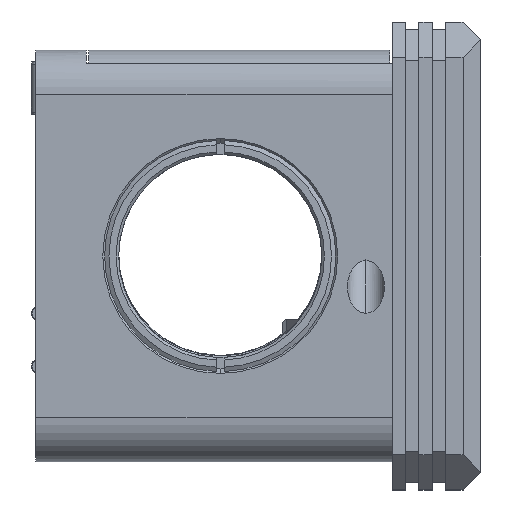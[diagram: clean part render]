
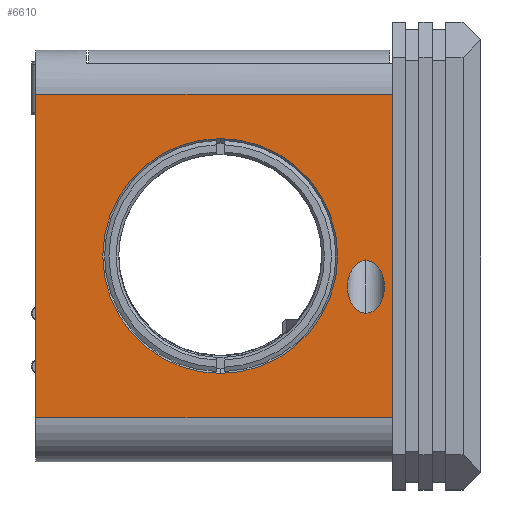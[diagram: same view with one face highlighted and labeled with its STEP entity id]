
A CAD part, left-side view. The second image highlights one B-rep face of the part: STEP entity #6610.
In plain terms, the highlighted planar face has unit normal (-1, 0, 0).
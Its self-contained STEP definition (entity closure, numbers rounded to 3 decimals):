
#494 = DIRECTION ( 'NONE',  ( 1., 0., 0. ) ) ;
#1350 = CARTESIAN_POINT ( 'NONE',  ( -23.3, 17.2, -0.531 ) ) ;
#1436 = EDGE_CURVE ( 'NONE', #12623, #16830, #18427, .T. ) ;
#1718 = DIRECTION ( 'NONE',  ( 0., 0., 1. ) ) ;
#2233 = EDGE_LOOP ( 'NONE', ( #11925, #2868 ) ) ;
#2402 = LINE ( 'NONE', #8544, #19391 ) ;
#2868 = ORIENTED_EDGE ( 'NONE', *, *, #6452, .T. ) ;
#3209 = VECTOR ( 'NONE', #15490, 1000. ) ;
#3302 = EDGE_LOOP ( 'NONE', ( #7041, #12792 ) ) ;
#3423 = CARTESIAN_POINT ( 'NONE',  ( -23.3, 29.5, 0. ) ) ;
#3513 = CARTESIAN_POINT ( 'NONE',  ( -23.3, 29.5, 0. ) ) ;
#5139 = CARTESIAN_POINT ( 'NONE',  ( -23.3, 50.4, -23.3 ) ) ;
#5323 = DIRECTION ( 'NONE',  ( 0., -1., 0. ) ) ;
#5407 = AXIS2_PLACEMENT_3D ( 'NONE', #3423, #9570, #15676 ) ;
#5582 = EDGE_CURVE ( 'NONE', #13439, #7013, #2402, .T. ) ;
#6394 = VERTEX_POINT ( 'NONE', #7086 ) ;
#6452 = EDGE_CURVE ( 'NONE', #17931, #19031, #16298, .T. ) ;
#6562 = FACE_BOUND ( 'NONE', #3302, .T. ) ;
#6590 = EDGE_CURVE ( 'NONE', #19031, #17931, #18968, .T. ) ;
#6608 = ORIENTED_EDGE ( 'NONE', *, *, #11886, .T. ) ;
#6610 = ADVANCED_FACE ( 'NONE', ( #6562, #18507, #9611 ), #11012, .F. ) ;
#7013 = VERTEX_POINT ( 'NONE', #12106 ) ;
#7041 = ORIENTED_EDGE ( 'NONE', *, *, #17717, .T. ) ;
#7086 = CARTESIAN_POINT ( 'NONE',  ( -23.3, 29.5, 13.3 ) ) ;
#7479 = CARTESIAN_POINT ( 'NONE',  ( -23.3, 17.2, -6.471 ) ) ;
#7809 = CARTESIAN_POINT ( 'NONE',  ( -23.3, 10., 18.3 ) ) ;
#8459 = CARTESIAN_POINT ( 'NONE',  ( -23.3, 50.4, -18.3 ) ) ;
#8544 = CARTESIAN_POINT ( 'NONE',  ( -23.3, 10., -18.3 ) ) ;
#8878 = LINE ( 'NONE', #9475, #13786 ) ;
#9019 = CARTESIAN_POINT ( 'NONE',  ( -23.3, 13., -0.531 ) ) ;
#9419 = CARTESIAN_POINT ( 'NONE',  ( -23.3, 8.8, -6.471 ) ) ;
#9475 = CARTESIAN_POINT ( 'NONE',  ( -23.3, 10., -23.3 ) ) ;
#9570 = DIRECTION ( 'NONE',  ( 1., 0., 0. ) ) ;
#9611 = FACE_OUTER_BOUND ( 'NONE', #14915, .T. ) ;
#9675 = ORIENTED_EDGE ( 'NONE', *, *, #1436, .T. ) ;
#9709 = DIRECTION ( 'NONE',  ( 0., 0., 1. ) ) ;
#9917 = ORIENTED_EDGE ( 'NONE', *, *, #5582, .T. ) ;
#10379 = AXIS2_PLACEMENT_3D ( 'NONE', #3513, #494, #1718 ) ;
#10393 = CARTESIAN_POINT ( 'NONE',  ( -23.3, 10., 18.3 ) ) ;
#10740 = EDGE_CURVE ( 'NONE', #6394, #17759, #14395, .T. ) ;
#11012 = PLANE ( 'NONE',  #16527 ) ;
#11294 = CARTESIAN_POINT ( 'NONE',  ( -23.3, 13., -6.471 ) ) ;
#11812 = CARTESIAN_POINT ( 'NONE',  ( -23.3, 13., -0.531 ) ) ;
#11886 = EDGE_CURVE ( 'NONE', #16830, #13439, #12581, .T. ) ;
#11925 = ORIENTED_EDGE ( 'NONE', *, *, #6590, .T. ) ;
#12106 = CARTESIAN_POINT ( 'NONE',  ( -23.3, 10., -18.3 ) ) ;
#12438 = DIRECTION ( 'NONE',  ( 0., 1., 0. ) ) ;
#12581 = LINE ( 'NONE', #5139, #3209 ) ;
#12623 = VERTEX_POINT ( 'NONE', #10393 ) ;
#12701 = CARTESIAN_POINT ( 'NONE',  ( -23.3, 8.8, -0.531 ) ) ;
#12792 = ORIENTED_EDGE ( 'NONE', *, *, #10740, .T. ) ;
#13073 = DIRECTION ( 'NONE',  ( 0., 0., -1. ) ) ;
#13105 = VECTOR ( 'NONE', #12438, 1000. ) ;
#13326 = ORIENTED_EDGE ( 'NONE', *, *, #13429, .F. ) ;
#13429 = EDGE_CURVE ( 'NONE', #12623, #7013, #8878, .T. ) ;
#13439 = VERTEX_POINT ( 'NONE', #8459 ) ;
#13728 = CARTESIAN_POINT ( 'NONE',  ( -23.3, 50.4, 18.3 ) ) ;
#13786 = VECTOR ( 'NONE', #13073, 1000. ) ;
#13933 = CARTESIAN_POINT ( 'NONE',  ( -23.3, 13., -6.471 ) ) ;
#14395 = CIRCLE ( 'NONE', #5407, 13.3 ) ;
#14863 = CIRCLE ( 'NONE', #10379, 13.3 ) ;
#14915 = EDGE_LOOP ( 'NONE', ( #13326, #9675, #6608, #9917 ) ) ;
#15358 = CARTESIAN_POINT ( 'NONE',  ( -23.3, 13., -6.471 ) ) ;
#15490 = DIRECTION ( 'NONE',  ( 0., 0., -1. ) ) ;
#15676 = DIRECTION ( 'NONE',  ( 0., 0., 1. ) ) ;
#15805 = CARTESIAN_POINT ( 'NONE',  ( -23.3, 10., -23.3 ) ) ;
#16298 =( BOUNDED_CURVE ( )  B_SPLINE_CURVE ( 3, ( #13933, #7479, #1350, #9019 ),
 .UNSPECIFIED., .F., .F. ) 
 B_SPLINE_CURVE_WITH_KNOTS ( ( 4, 4 ),
 ( 3.142, 6.283 ),
 .UNSPECIFIED. ) 
 CURVE ( )  GEOMETRIC_REPRESENTATION_ITEM ( )  RATIONAL_B_SPLINE_CURVE ( ( 1., 0.333, 0.333, 1. ) ) 
 REPRESENTATION_ITEM ( '' )  );
#16527 = AXIS2_PLACEMENT_3D ( 'NONE', #15805, #17112, #9709 ) ;
#16830 = VERTEX_POINT ( 'NONE', #13728 ) ;
#17112 = DIRECTION ( 'NONE',  ( 1., 0., 0. ) ) ;
#17402 = CARTESIAN_POINT ( 'NONE',  ( -23.3, 13., -0.531 ) ) ;
#17717 = EDGE_CURVE ( 'NONE', #17759, #6394, #14863, .T. ) ;
#17759 = VERTEX_POINT ( 'NONE', #18561 ) ;
#17931 = VERTEX_POINT ( 'NONE', #15358 ) ;
#18427 = LINE ( 'NONE', #7809, #13105 ) ;
#18507 = FACE_BOUND ( 'NONE', #2233, .T. ) ;
#18561 = CARTESIAN_POINT ( 'NONE',  ( -23.3, 29.5, -13.3 ) ) ;
#18968 =( BOUNDED_CURVE ( )  B_SPLINE_CURVE ( 3, ( #17402, #12701, #9419, #11294 ),
 .UNSPECIFIED., .F., .T. ) 
 B_SPLINE_CURVE_WITH_KNOTS ( ( 4, 4 ),
 ( 0., 3.142 ),
 .UNSPECIFIED. ) 
 CURVE ( )  GEOMETRIC_REPRESENTATION_ITEM ( )  RATIONAL_B_SPLINE_CURVE ( ( 1., 0.333, 0.333, 1. ) ) 
 REPRESENTATION_ITEM ( '' )  );
#19031 = VERTEX_POINT ( 'NONE', #11812 ) ;
#19391 = VECTOR ( 'NONE', #5323, 1000. ) ;
